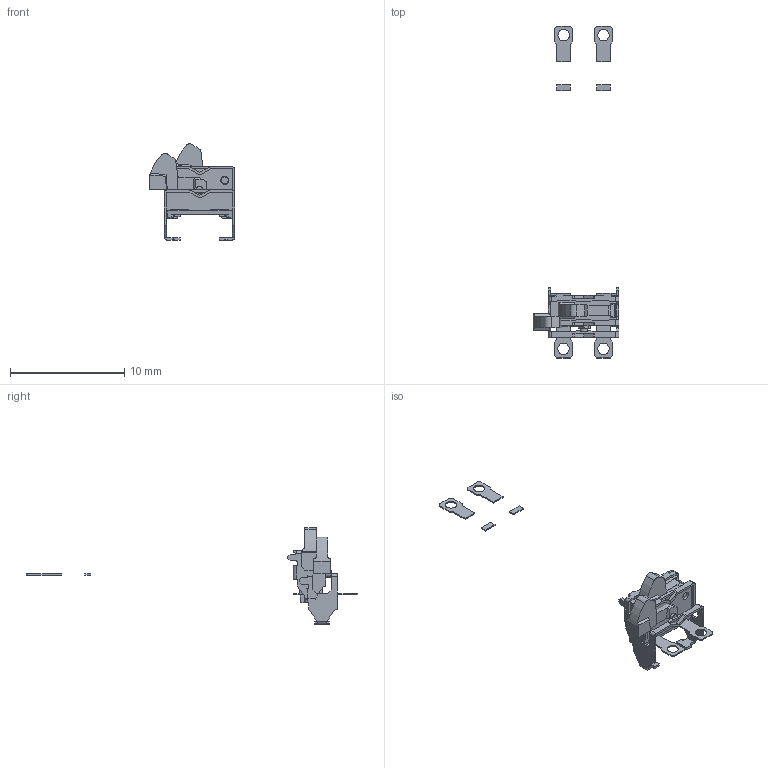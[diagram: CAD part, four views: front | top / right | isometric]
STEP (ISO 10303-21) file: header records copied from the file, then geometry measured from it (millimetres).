
FILE_DESCRIPTION( ( 'Unknown' ), '1' );
FILE_NAME( '//Ntcw022/edgesv/fsw/ユーザ提出用データ/ﾃﾞｨﾃｸﾀｰｽｲｯﾁ/ESE22/ese22mh58-std-sk.stp', 'Unknown', ( 'Unknown' ), ( 'Unknown' ), 'PSStep 10.0', 'Unknown', ' ' );
FILE_SCHEMA( ( 'AUTOMOTIVE_DESIGN { 1 0 10303 214 1 1 1 1 }' ) );
Length unit declared in the file: millimetre
Products named in the file (8): Assem1; e22cs4bb-mh-l-pc-r00; sw-3d-131-e22ts17-mh-sk-r00; sw-3d-131-e22tf10a-mh-sk-r00.par; sw-3d-131-e22lv12a-sk-r14
Bounding box: 7.49 x 29.06 x 8.43 mm (x, y, z)
Volume: 121.5 mm3; surface area: 432 mm2
Topology: 14 solids, 14 shells, 582 faces, 1632 edges, 1048 vertices
Faces by surface type: plane 412, cylinder 154, bspline 8, sphere 8
Full cylindrical faces by diameter (mm): 0.6 x2, 0.7 x2, 1 x4
Entity records: 11448 total; most frequent: CARTESIAN_POINT 1738, ORIENTED_EDGE 1602, DIRECTION 1549, EDGE_CURVE 801, LINE 631, VECTOR 631, VERTEX_POINT 522, AXIS2_PLACEMENT_3D 459
